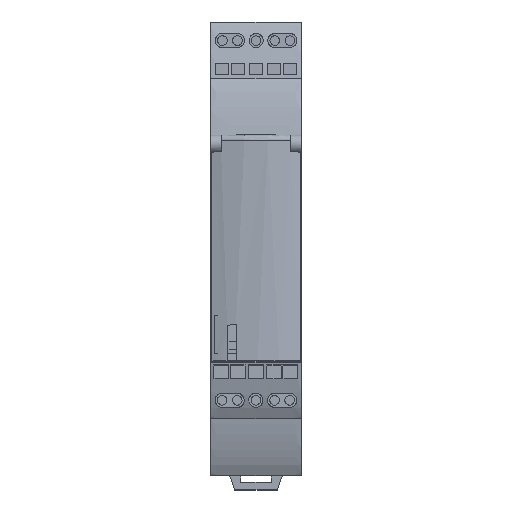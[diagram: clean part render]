
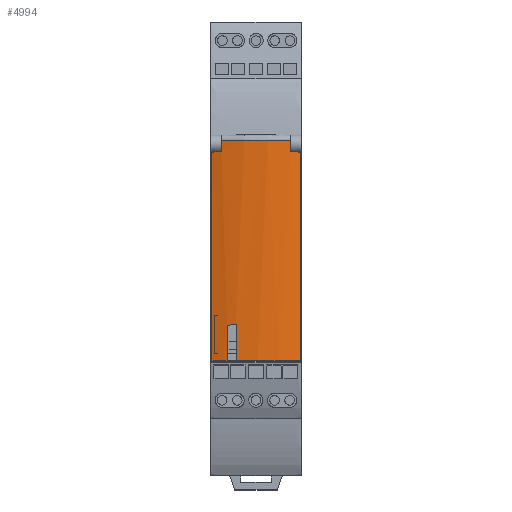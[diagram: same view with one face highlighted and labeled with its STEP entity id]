
A CAD part, top view. The second image highlights one B-rep face of the part: STEP entity #4994.
In plain terms, the highlighted cylindrical face has radius 30 mm (diameter 60 mm), a partial arc.
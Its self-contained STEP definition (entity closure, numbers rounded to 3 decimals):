
#1248=DIRECTION('',(0.,-1.,0.));
#1249=VECTOR('',#1248,41.332);
#1250=CARTESIAN_POINT('',(0.2,64.084,70.665));
#1251=LINE('',#1250,#1249);
#1260=CARTESIAN_POINT('',(2.038,64.218,71.162));
#1261=CARTESIAN_POINT('',(1.42,64.178,71.016));
#1262=CARTESIAN_POINT('',(0.807,64.134,70.85));
#1263=CARTESIAN_POINT('',(0.2,64.084,70.665));
#1269=CARTESIAN_POINT('',(17.7,64.084,70.665));
#1270=CARTESIAN_POINT('',(17.093,64.134,70.85));
#1271=CARTESIAN_POINT('',(16.48,64.178,71.016));
#1272=CARTESIAN_POINT('',(15.862,64.218,71.162));
#1274=DIRECTION('',(0.,-1.,0.));
#1275=VECTOR('',#1274,0.379);
#1276=CARTESIAN_POINT('',(2.038,64.597,71.162));
#1277=LINE('',#1276,#1275);
#1348=DIRECTION('',(0.,-1.,0.));
#1349=VECTOR('',#1348,0.379);
#1350=CARTESIAN_POINT('',(15.862,64.597,71.162));
#1351=LINE('',#1350,#1349);
#1364=CARTESIAN_POINT('',(8.95,66.5,41.969));
#1365=DIRECTION('',(0.,1.,0.));
#1366=DIRECTION('',(-0.23,0.,0.973));
#1367=AXIS2_PLACEMENT_3D('',#1364,#1365,#1366);
#1369=DIRECTION('',(0.,-1.,0.));
#1370=VECTOR('',#1369,7.189);
#1371=CARTESIAN_POINT('',(5.,29.941,71.708));
#1372=LINE('',#1371,#1370);
#1373=CARTESIAN_POINT('',(3.2,29.768,71.413));
#1374=CARTESIAN_POINT('',(3.399,29.79,71.452));
#1375=CARTESIAN_POINT('',(3.799,29.834,71.526));
#1376=CARTESIAN_POINT('',(4.399,29.892,71.624));
#1377=CARTESIAN_POINT('',(4.799,29.926,71.682));
#1378=CARTESIAN_POINT('',(5.,29.941,71.708));
#1380=DIRECTION('',(0.,-1.,0.));
#1381=VECTOR('',#1380,7.015);
#1382=CARTESIAN_POINT('',(3.2,29.768,71.413));
#1383=LINE('',#1382,#1381);
#1384=DIRECTION('',(0.,1.,0.));
#1385=VECTOR('',#1384,1.903);
#1386=CARTESIAN_POINT('',(2.038,64.597,71.162));
#1387=LINE('',#1386,#1385);
#1388=DIRECTION('',(0.,1.,0.));
#1389=VECTOR('',#1388,1.903);
#1390=CARTESIAN_POINT('',(15.862,64.597,71.162));
#1391=LINE('',#1390,#1389);
#1408=DIRECTION('',(0.,-1.,0.));
#1409=VECTOR('',#1408,41.332);
#1410=CARTESIAN_POINT('',(17.7,64.084,70.665));
#1411=LINE('',#1410,#1409);
#1436=CARTESIAN_POINT('',(8.95,22.752,41.969));
#1437=DIRECTION('',(0.,1.,0.));
#1438=DIRECTION('',(-0.132,0.,0.991));
#1439=AXIS2_PLACEMENT_3D('',#1436,#1437,#1438);
#1441=CARTESIAN_POINT('',(8.95,22.752,41.969));
#1442=DIRECTION('',(0.,1.,0.));
#1443=DIRECTION('',(-0.292,0.,0.957));
#1444=AXIS2_PLACEMENT_3D('',#1441,#1442,#1443);
#2982=CARTESIAN_POINT('',(0.2,64.084,70.665));
#2984=VERTEX_POINT('',#2982);
#2987=CARTESIAN_POINT('',(0.2,22.752,70.665));
#2989=VERTEX_POINT('',#2987);
#2990=CARTESIAN_POINT('',(17.7,64.084,70.665));
#2992=VERTEX_POINT('',#2990);
#2995=CARTESIAN_POINT('',(17.7,22.752,70.665));
#2997=VERTEX_POINT('',#2995);
#3086=CARTESIAN_POINT('',(2.038,64.218,71.162));
#3088=VERTEX_POINT('',#3086);
#3090=CARTESIAN_POINT('',(15.862,64.218,71.162));
#3092=VERTEX_POINT('',#3090);
#3098=CARTESIAN_POINT('',(3.2,22.752,71.413));
#3099=VERTEX_POINT('',#3098);
#3100=CARTESIAN_POINT('',(5.,22.752,71.708));
#3101=VERTEX_POINT('',#3100);
#3108=VERTEX_POINT('',#1373);
#3109=VERTEX_POINT('',#1378);
#3252=CARTESIAN_POINT('',(2.038,64.597,71.162));
#3253=VERTEX_POINT('',#3252);
#3254=CARTESIAN_POINT('',(15.862,64.597,71.162));
#3255=VERTEX_POINT('',#3254);
#3258=CARTESIAN_POINT('',(2.038,66.5,71.162));
#3259=CARTESIAN_POINT('',(15.862,66.5,71.162));
#3260=VERTEX_POINT('',#3258);
#3261=VERTEX_POINT('',#3259);
#4966=CARTESIAN_POINT('',(8.95,22.752,41.969));
#4967=DIRECTION('',(0.,-1.,0.));
#4968=DIRECTION('',(1.,0.,0.));
#4969=AXIS2_PLACEMENT_3D('',#4966,#4967,#4968);
#4970=CYLINDRICAL_SURFACE('',#4969,30.);
#4971=ORIENTED_EDGE('',*,*,#4933,.T.);
#4973=ORIENTED_EDGE('',*,*,#4972,.F.);
#4974=ORIENTED_EDGE('',*,*,#4948,.T.);
#4975=ORIENTED_EDGE('',*,*,#4841,.F.);
#4977=ORIENTED_EDGE('',*,*,#4976,.T.);
#4979=ORIENTED_EDGE('',*,*,#4978,.F.);
#4981=ORIENTED_EDGE('',*,*,#4980,.F.);
#4983=ORIENTED_EDGE('',*,*,#4982,.F.);
#4985=ORIENTED_EDGE('',*,*,#4984,.T.);
#4987=ORIENTED_EDGE('',*,*,#4986,.F.);
#4988=ORIENTED_EDGE('',*,*,#4805,.F.);
#4989=ORIENTED_EDGE('',*,*,#4822,.F.);
#4990=ORIENTED_EDGE('',*,*,#4854,.F.);
#4991=ORIENTED_EDGE('',*,*,#4919,.T.);
#4992=EDGE_LOOP('',(#4971,#4973,#4974,#4975,#4977,#4979,#4981,#4983,#4985,#4987,
#4988,#4989,#4990,#4991));
#4993=FACE_OUTER_BOUND('',#4992,.F.);
#1264=B_SPLINE_CURVE_WITH_KNOTS('',3,(#1260,#1261,#1262,#1263),.UNSPECIFIED.,
.F.,.F.,(4,4),(0.,1.),.UNSPECIFIED.);
#1273=B_SPLINE_CURVE_WITH_KNOTS('',3,(#1269,#1270,#1271,#1272),.UNSPECIFIED.,
.F.,.F.,(4,4),(0.,1.),.UNSPECIFIED.);
#1368=CIRCLE('',#1367,30.);
#1379=B_SPLINE_CURVE_WITH_KNOTS('',3,(#1373,#1374,#1375,#1376,#1377,#1378),
.UNSPECIFIED.,.F.,.F.,(4,1,1,4),(0.,0.333,0.667,1.),
.UNSPECIFIED.);
#1440=CIRCLE('',#1439,30.);
#1445=CIRCLE('',#1444,30.);
#4805=EDGE_CURVE('',#2984,#2989,#1251,.T.);
#4822=EDGE_CURVE('',#3088,#2984,#1264,.T.);
#4841=EDGE_CURVE('',#2992,#3092,#1273,.T.);
#4854=EDGE_CURVE('',#3253,#3088,#1277,.T.);
#4919=EDGE_CURVE('',#3253,#3260,#1387,.T.);
#4933=EDGE_CURVE('',#3260,#3261,#1368,.T.);
#4948=EDGE_CURVE('',#3255,#3092,#1351,.T.);
#4972=EDGE_CURVE('',#3255,#3261,#1391,.T.);
#4976=EDGE_CURVE('',#2992,#2997,#1411,.T.);
#4978=EDGE_CURVE('',#3101,#2997,#1440,.T.);
#4980=EDGE_CURVE('',#3109,#3101,#1372,.T.);
#4982=EDGE_CURVE('',#3108,#3109,#1379,.T.);
#4984=EDGE_CURVE('',#3108,#3099,#1383,.T.);
#4986=EDGE_CURVE('',#2989,#3099,#1445,.T.);
#4994=ADVANCED_FACE('',(#4993),#4970,.T.);
